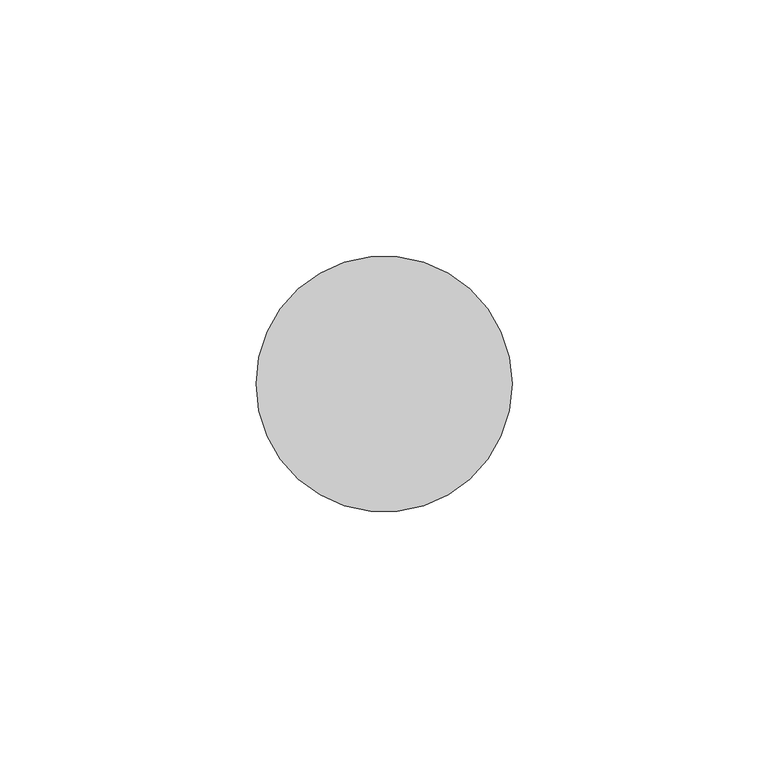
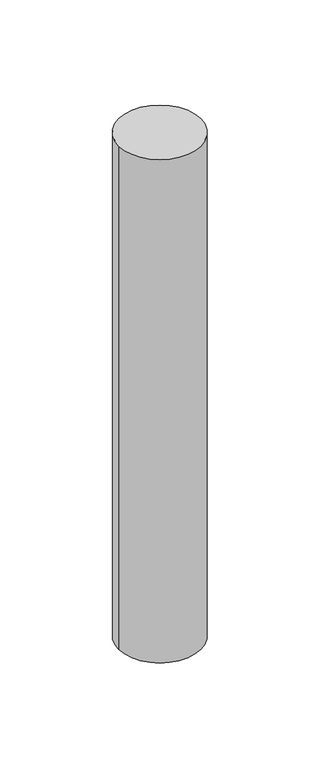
"""IFC4 building model written with IfcOpenShell, lengths in millimetres: member geometry, 圓形豎框 : 25mm 半徑."""

import ifcopenshell
import ifcopenshell.guid

model = None  # the IFC model being written
_history = None  # IfcOwnerHistory: only IFC2X3 demands one
_inside = {}  # id of a spatial element -> (the spatial element, [elements in it])
_under = {}  # id of a project, library or spatial element -> (it, [spatial elements below it])
_declared = {}  # id of a project -> (the project, [libraries it declares])
_typed = {}  # id of a type object -> (the type object, [elements of that type])
_made_of = {}  # id of a material, layer set ... -> (it, [elements and type objects made of it])


def new_model(schema):
    """Start an empty IFC model of exactly this schema.

    Asked for "IFC4X3", IfcOpenShell would pick the latest addendum, in which some entities
    have other attributes; the version numbers below select the first issue.
    IFC2X3 requires an IfcOwnerHistory on every rooted entity: one is made here for all.
    """
    global model, _history
    if schema == "IFC4X3":
        model = ifcopenshell.file(schema_version=(4, 3, 0, 0))
    else:
        model = ifcopenshell.file(schema=schema)
    _inside.clear()
    _under.clear()
    _declared.clear()
    _typed.clear()
    _made_of.clear()
    _history = None
    if model.schema == "IFC2X3":
        org = make("IfcOrganization", Name="unknown")
        user = make(
            "IfcPersonAndOrganization",
            ThePerson=make("IfcPerson", FamilyName="unknown"),
            TheOrganization=org,
        )
        app = make(
            "IfcApplication",
            ApplicationDeveloper=org,
            Version="unknown",
            ApplicationFullName="unknown",
            ApplicationIdentifier="unknown",
        )
        _history = make(
            "IfcOwnerHistory",
            OwningUser=user,
            OwningApplication=app,
            ChangeAction="ADDED",
            CreationDate=0,
        )
    return model


def make(cls, **values):
    """One entity of the class cls with the attributes given. An attribute that is None is left unset."""
    return model.create_entity(
        cls, **{name: value for name, value in values.items() if value is not None}
    )


def rooted(cls, **values):
    """An entity with a GlobalId (a new one), such as an element, a storey or a relation."""
    return make(cls, GlobalId=ifcopenshell.guid.new(), OwnerHistory=_history, **values)


def si_unit(unit_type, name, prefix=None):
    """IfcSIUnit, for example si_unit("LENGTHUNIT", "METRE", prefix="MILLI")."""
    return make("IfcSIUnit", UnitType=unit_type, Prefix=prefix, Name=name)


def assignment(units):
    """IfcUnitAssignment: the units of a project."""
    return None if units is None else make("IfcUnitAssignment", Units=units)


def point(xyz):
    """IfcCartesianPoint."""
    return None if xyz is None else make("IfcCartesianPoint", Coordinates=xyz)


def direction(xyz):
    """IfcDirection."""
    return None if xyz is None else make("IfcDirection", DirectionRatios=xyz)


def frame(location, z_axis=None, x_axis=None):
    """IfcAxis2Placement3D, a coordinate frame: its origin and axes. An axis left out is left unset."""
    return make(
        "IfcAxis2Placement3D",
        Location=point(location),
        Axis=direction(z_axis),
        RefDirection=direction(x_axis),
    )


def frame_2d(location, x_axis=None):
    """IfcAxis2Placement2D, a coordinate frame in the plane: its origin and x axis."""
    return make(
        "IfcAxis2Placement2D", Location=point(location), RefDirection=direction(x_axis)
    )


def origin():
    """The frame at (0, 0, 0) with its axes left unset."""
    return frame((0.0, 0.0, 0.0))


def origin_2d():
    """The frame at (0, 0) in the plane with its x axis left unset."""
    return frame_2d((0.0, 0.0))


def place(relative_to, where):
    """IfcLocalPlacement: puts the frame where relative to a parent placement (None: the world)."""
    return make(
        "IfcLocalPlacement", PlacementRelTo=relative_to, RelativePlacement=where
    )


def context(
    kind, dimensions, precision=None, world=None, true_north=None, identifier=None
):
    """IfcGeometricRepresentationContext, for example the 3D "Model" context."""
    return make(
        "IfcGeometricRepresentationContext",
        ContextIdentifier=identifier,
        ContextType=kind,
        CoordinateSpaceDimension=dimensions,
        Precision=precision,
        WorldCoordinateSystem=world,
        TrueNorth=true_north,
    )


def project(units=None, contexts=None):
    """IfcProject with its units and contexts."""
    return rooted(
        "IfcProject",
        Name="project",
        RepresentationContexts=contexts,
        UnitsInContext=assignment(units),
    )


def spatial(cls, under=None, at=None, **own):
    """A site, building, storey or space (cls), placed at a placement, below another one or the project."""
    s = rooted(cls, ObjectPlacement=at, **own)
    if under is not None:
        _under.setdefault(under.id(), (under, []))[1].append(s)
    return s


def circle_curve(where, radius):
    """IfcCircle in the frame where."""
    return make("IfcCircle", Position=where, Radius=radius)


def trimmed(basis, trim1, trim2, sense, master):
    """IfcTrimmedCurve: the piece of a basis curve between two trims."""
    return make(
        "IfcTrimmedCurve",
        BasisCurve=basis,
        Trim1=trim1,
        Trim2=trim2,
        SenseAgreement=sense,
        MasterRepresentation=master,
    )


def segment(curve, same_sense, transition):
    """IfcCompositeCurveSegment."""
    return make(
        "IfcCompositeCurveSegment",
        Transition=transition,
        SameSense=same_sense,
        ParentCurve=curve,
    )


def composite_curve(segments, self_intersect=None):
    """IfcCompositeCurve: segments joined end to end."""
    return make("IfcCompositeCurve", Segments=segments, SelfIntersect=self_intersect)


def outline(outer, holes=None, kind="AREA"):
    """IfcArbitraryClosedProfileDef: a profile drawn as a closed curve; with holes, ...WithVoids."""
    if holes is None:
        return make("IfcArbitraryClosedProfileDef", ProfileType=kind, OuterCurve=outer)
    return make(
        "IfcArbitraryProfileDefWithVoids",
        ProfileType=kind,
        OuterCurve=outer,
        InnerCurves=holes,
    )


def extrude(swept, where, along, depth):
    """IfcExtrudedAreaSolid: the profile swept, set in the frame where, extruded along a direction by depth."""
    return make(
        "IfcExtrudedAreaSolid",
        SweptArea=swept,
        Position=where,
        ExtrudedDirection=direction(along),
        Depth=depth,
    )


def shape(context_of_items, identifier, shape_type, items):
    """IfcShapeRepresentation: the items that make up one representation, for example the "Body"."""
    return make(
        "IfcShapeRepresentation",
        ContextOfItems=context_of_items,
        RepresentationIdentifier=identifier,
        RepresentationType=shape_type,
        Items=items,
    )


def source(mapping_origin, context_of_items, identifier, shape_type, items):
    """IfcRepresentationMap: a shape defined once, which mapped items show again and again."""
    return make(
        "IfcRepresentationMap",
        MappingOrigin=mapping_origin,
        MappedRepresentation=shape(context_of_items, identifier, shape_type, items),
    )


def transform(
    local_origin,
    x_axis=None,
    y_axis=None,
    z_axis=None,
    scale=None,
    scale2=None,
    scale3=None,
    uniform=True,
):
    """IfcCartesianTransformationOperator3D, or its non-uniform kind. x_axis, y_axis, z_axis: its Axis1, 2, 3."""
    if uniform:
        return make(
            "IfcCartesianTransformationOperator3D",
            Axis1=direction(x_axis),
            Axis2=direction(y_axis),
            LocalOrigin=point(local_origin),
            Scale=scale,
            Axis3=direction(z_axis),
        )
    return make(
        "IfcCartesianTransformationOperator3DnonUniform",
        Axis1=direction(x_axis),
        Axis2=direction(y_axis),
        LocalOrigin=point(local_origin),
        Scale=scale,
        Axis3=direction(z_axis),
        Scale2=scale2,
        Scale3=scale3,
    )


def mapped(mapping_source, mapping_target):
    """IfcMappedItem: shows the shape of a source again, moved by a transform."""
    return make(
        "IfcMappedItem", MappingSource=mapping_source, MappingTarget=mapping_target
    )


def made_of(thing, what):
    """Note that an element or type object is made of a material, layer set ...; save() writes the relation."""
    if what is not None:
        _made_of.setdefault(what.id(), (what, []))[1].append(thing)
    return thing


def element(
    cls,
    number,
    at=None,
    inside=None,
    cuts=None,
    type_object=None,
    material=None,
    context=None,
    identifier="Body",
    shape_type=None,
    held_by="IfcProductDefinitionShape",
    body=None,
    shapes=None,
    **own,
):
    """One element of the class cls, such as IfcWall. Its Tag is "e" and its number.

    at: its placement. inside: the storey or other place that contains it. cuts: it is an
    opening in that element (IfcRelVoidsElement). A single representation is given by context,
    identifier, shape_type and body (its items); several are given by shapes. held_by: the class
    of the entity that holds the representations. save() writes the other relations.
    """
    e = rooted(cls, Tag="e%d" % number, ObjectPlacement=at, **own)
    if body is not None:
        shapes = [shape(context, identifier, shape_type, body)]
    if shapes is not None:
        e.Representation = make(held_by, Representations=shapes)
    if inside is not None:
        _inside.setdefault(inside.id(), (inside, []))[1].append(e)
    if cuts is not None:
        rooted(
            "IfcRelVoidsElement", RelatingBuildingElement=cuts, RelatedOpeningElement=e
        )
    if type_object is not None:
        _typed.setdefault(type_object.id(), (type_object, []))[1].append(e)
    return made_of(e, material)


def aggregate(whole, parts):
    """IfcRelAggregates: a whole, such as a stair, and the parts it consists of."""
    return rooted("IfcRelAggregates", RelatingObject=whole, RelatedObjects=parts)


def save(model, path):
    """Write the relations noted so far, then the file.

    IfcRelAggregates (storeys below a building ...), IfcRelContainedInSpatialStructure (elements
    in a storey), IfcRelDefinesByType, IfcRelAssociatesMaterial and IfcRelDeclares: one each for
    every whole, place, type object, material and project.
    """
    for whole, parts in _under.values():
        aggregate(whole, parts)
    for where, things in _inside.values():
        rooted(
            "IfcRelContainedInSpatialStructure",
            RelatedElements=things,
            RelatingStructure=where,
        )
    for kind, things in _typed.values():
        rooted("IfcRelDefinesByType", RelatedObjects=things, RelatingType=kind)
    for what, things in _made_of.values():
        rooted("IfcRelAssociatesMaterial", RelatedObjects=things, RelatingMaterial=what)
    for by, libraries in _declared.values():
        rooted("IfcRelDeclares", RelatingContext=by, RelatedDefinitions=libraries)
    model.write(path)


def member_67be213a(model_context):
    return source(origin(), model_context, "Body", "SweptSolid", [
        extrude(outline(composite_curve([segment(trimmed(circle_curve(origin_2d(), 25.0), [point((25.0, 0.0))], [point((-25.0, 0.0))], False, "CARTESIAN"), True, "CONTINUOUS"), segment(trimmed(circle_curve(origin_2d(), 25.0), [point((-25.0, 0.0))], [point((25.0, 0.0))], False, "CARTESIAN"), True, "CONTINUOUS")], self_intersect=False)), frame((0.0, 0.0, -322.9543147), z_axis=(0.0, 0.0, 1.0), x_axis=(1.0, 0.0, 0.0)), (0.0, 0.0, 1.0), 322.9543147),
    ])


if __name__ == "__main__":
    model = new_model("IFC4")
    model_context = context("Model", 3, world=origin())
    ifc_project = project(units=[si_unit("LENGTHUNIT", "METRE", prefix="MILLI")], contexts=[model_context])
    site = spatial("IfcSite", under=ifc_project)
    building = spatial("IfcBuilding", under=site)
    placement = place(None, origin())
    member_shape = member_67be213a(model_context)
    element("IfcMember", 1, ObjectType="圓形豎框 : 25mm 半徑", at=placement, inside=building, context=model_context, shape_type="MappedRepresentation", body=[
        mapped(member_shape, transform((0.0, 0.0, 0.0), x_axis=(1.0, 0.0, 0.0), y_axis=(0.0, 1.0, 0.0), z_axis=(0.0, 0.0, 1.0))),
    ])
    save(model, "model.ifc")
